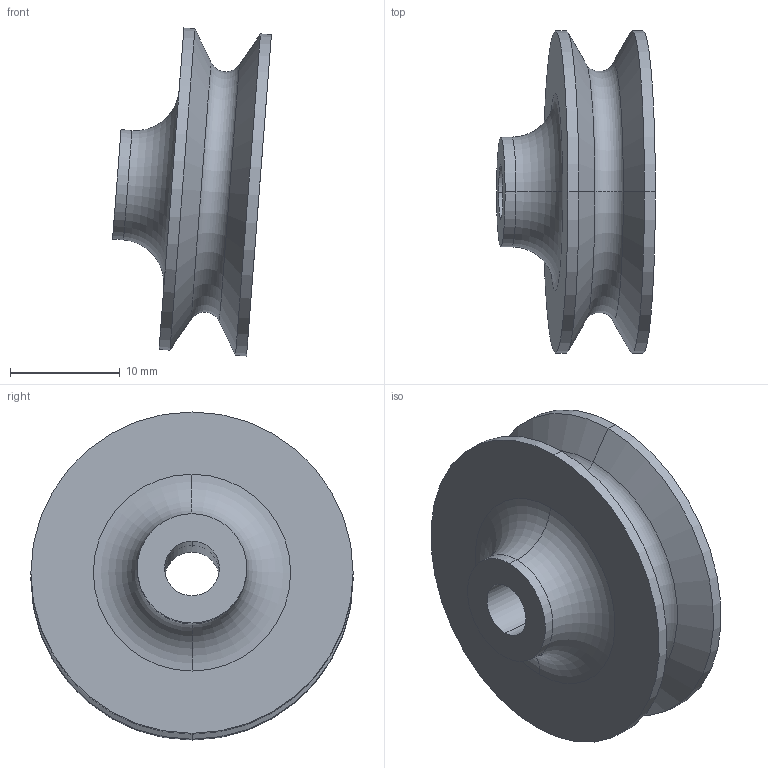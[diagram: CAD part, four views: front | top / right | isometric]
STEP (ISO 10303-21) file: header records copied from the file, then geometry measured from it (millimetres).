
FILE_DESCRIPTION((''),'2;1');
FILE_NAME('0000237164_PRT','2025-11-12T18:34:12',('Wyndorps'),(''),'CREO PARAMETRIC BY PTC INC, 2025010','CREO PARAMETRIC BY PTC INC, 2025010','');
FILE_SCHEMA(('CONFIG_CONTROL_DESIGN'));
Length unit declared in the file: millimetre
Products named in the file (1): 0000237164_PRT
Bounding box: 14.48 x 29.39 x 29.92 mm (x, y, z)
Volume: 4525.6 mm3; surface area: 2604.4 mm2
Topology: 1 solids, 1 shells, 21 faces, 42 edges, 24 vertices
Faces by surface type: cylinder 10, torus 4, cone 4, plane 3
Entity records: 590 total; most frequent: DIRECTION 112, CARTESIAN_POINT 87, ORIENTED_EDGE 84, AXIS2_PLACEMENT_3D 49, EDGE_CURVE 42, CIRCLE 28, VERTEX_POINT 24, EDGE_LOOP 24
